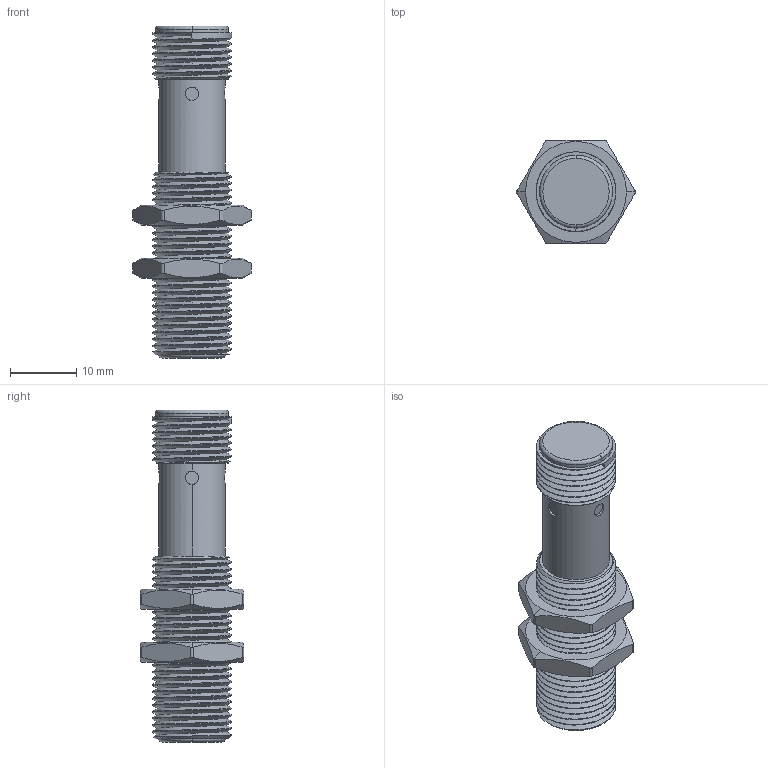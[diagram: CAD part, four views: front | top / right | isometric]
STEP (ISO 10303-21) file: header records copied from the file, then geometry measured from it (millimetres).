
FILE_DESCRIPTION((''),'2;1');
FILE_NAME('M12_QP_DS1250_ASM','2019-07-16T',('Administrator'),(''),'PRO/ENGINEER BY PARAMETRIC TECHNOLOGY CORPORATION, 2012130','PRO/ENGINEER BY PARAMETRIC TECHNOLOGY CORPORATION, 2012130','');
FILE_SCHEMA(('AUTOMOTIVE_DESIGN { 1 0 10303 214 1 1 1 1 }'));
Length unit declared in the file: millimetre
Products named in the file (3): M12_QP_DS1250; M12_LM; M12_QP_DS1250_ASM
Assembly tree (3 placements, depth 2):
  M12_QP_DS1250_ASM
    M12_QP_DS1250
    M12_LM  x2
Bounding box: 17.85 x 15.59 x 50 mm (x, y, z)
Volume: 5324.2 mm3; surface area: 4067.4 mm2
Topology: 3 solids, 3 shells, 167 faces, 449 edges, 294 vertices
Faces by surface type: cylinder 100, plane 30, bspline 22, cone 11, torus 4
Entity records: 13881 total; most frequent: CARTESIAN_POINT 10361, ORIENTED_EDGE 748, DIRECTION 453, EDGE_CURVE 374, VERTEX_POINT 244, B_SPLINE_CURVE_WITH_KNOTS 213, AXIS2_PLACEMENT_3D 166, EDGE_LOOP 148
